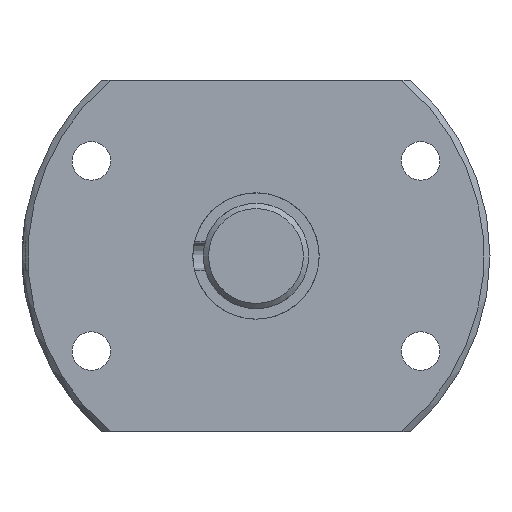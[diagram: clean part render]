
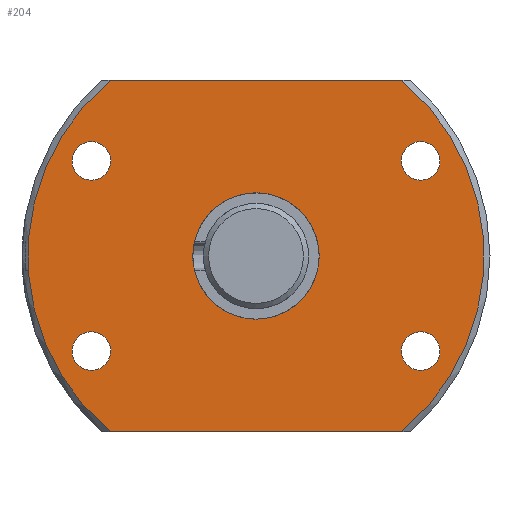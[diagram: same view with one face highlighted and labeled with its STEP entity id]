
A CAD part, left-side view. The second image highlights one B-rep face of the part: STEP entity #204.
In plain terms, the highlighted planar face has unit normal (-1, 0, 0).
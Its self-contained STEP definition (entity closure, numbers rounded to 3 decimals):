
#204 = ADVANCED_FACE( '', ( #311, #312, #313, #314, #315, #316 ), #317, .T. );
#311 = FACE_BOUND( '', #427, .T. );
#312 = FACE_OUTER_BOUND( '', #428, .T. );
#313 = FACE_BOUND( '', #429, .T. );
#314 = FACE_BOUND( '', #430, .T. );
#315 = FACE_BOUND( '', #431, .T. );
#316 = FACE_BOUND( '', #432, .T. );
#317 = PLANE( '', #433 );
#427 = EDGE_LOOP( '', ( #642 ) );
#428 = EDGE_LOOP( '', ( #643, #644, #645, #646 ) );
#429 = EDGE_LOOP( '', ( #647 ) );
#430 = EDGE_LOOP( '', ( #648 ) );
#431 = EDGE_LOOP( '', ( #649 ) );
#432 = EDGE_LOOP( '', ( #650 ) );
#433 = AXIS2_PLACEMENT_3D( '', #651, #652, #653 );
#642 = ORIENTED_EDGE( '', *, *, #718, .T. );
#643 = ORIENTED_EDGE( '', *, *, #738, .F. );
#644 = ORIENTED_EDGE( '', *, *, #703, .F. );
#645 = ORIENTED_EDGE( '', *, *, #709, .F. );
#646 = ORIENTED_EDGE( '', *, *, #739, .F. );
#647 = ORIENTED_EDGE( '', *, *, #695, .T. );
#648 = ORIENTED_EDGE( '', *, *, #697, .T. );
#649 = ORIENTED_EDGE( '', *, *, #699, .T. );
#650 = ORIENTED_EDGE( '', *, *, #701, .T. );
#651 = CARTESIAN_POINT( '', ( 0., 39., 0. ) );
#652 = DIRECTION( '', ( -1., 0., 0. ) );
#653 = DIRECTION( '', ( 0., 0., 1. ) );
#695 = EDGE_CURVE( '', #771, #771, #772, .T. );
#697 = EDGE_CURVE( '', #775, #775, #776, .T. );
#699 = EDGE_CURVE( '', #779, #779, #780, .T. );
#701 = EDGE_CURVE( '', #783, #783, #784, .T. );
#703 = EDGE_CURVE( '', #785, #788, #789, .T. );
#709 = EDGE_CURVE( '', #798, #785, #800, .T. );
#718 = EDGE_CURVE( '', #815, #815, #816, .T. );
#738 = EDGE_CURVE( '', #788, #849, #850, .T. );
#739 = EDGE_CURVE( '', #849, #798, #851, .T. );
#771 = VERTEX_POINT( '', #944 );
#772 = CIRCLE( '', #945, 3.3 );
#775 = VERTEX_POINT( '', #948 );
#776 = CIRCLE( '', #949, 3.3 );
#779 = VERTEX_POINT( '', #952 );
#780 = CIRCLE( '', #953, 3.3 );
#783 = VERTEX_POINT( '', #956 );
#784 = CIRCLE( '', #957, 3.3 );
#785 = VERTEX_POINT( '', #958 );
#788 = VERTEX_POINT( '', #964 );
#789 = CIRCLE( '', #965, 39. );
#798 = VERTEX_POINT( '', #981 );
#800 = LINE( '', #986, #987 );
#815 = VERTEX_POINT( '', #1039 );
#816 = CIRCLE( '', #1040, 10.8 );
#849 = VERTEX_POINT( '', #1110 );
#850 = LINE( '', #1111, #1112 );
#851 = CIRCLE( '', #1113, 39. );
#944 = CARTESIAN_POINT( '', ( 0., 28.146, -19.55 ) );
#945 = AXIS2_PLACEMENT_3D( '', #1160, #1161, #1162 );
#948 = CARTESIAN_POINT( '', ( 0., -28.146, -19.55 ) );
#949 = AXIS2_PLACEMENT_3D( '', #1166, #1167, #1168 );
#952 = CARTESIAN_POINT( '', ( 0., -28.146, 12.95 ) );
#953 = AXIS2_PLACEMENT_3D( '', #1172, #1173, #1174 );
#956 = CARTESIAN_POINT( '', ( 0., 28.146, 12.95 ) );
#957 = AXIS2_PLACEMENT_3D( '', #1178, #1179, #1180 );
#958 = CARTESIAN_POINT( '', ( 0., 24.92, -30. ) );
#964 = CARTESIAN_POINT( '', ( 0., 24.92, 30. ) );
#965 = AXIS2_PLACEMENT_3D( '', #1181, #1182, #1183 );
#981 = CARTESIAN_POINT( '', ( 0., -24.92, -30. ) );
#986 = CARTESIAN_POINT( '', ( 0., -40.1, -30. ) );
#987 = VECTOR( '', #1188, 1000. );
#1039 = CARTESIAN_POINT( '', ( 0., 0., -10.8 ) );
#1040 = AXIS2_PLACEMENT_3D( '', #1200, #1201, #1202 );
#1110 = CARTESIAN_POINT( '', ( 0., -24.92, 30. ) );
#1111 = CARTESIAN_POINT( '', ( 0., 40.1, 30. ) );
#1112 = VECTOR( '', #1244, 1000. );
#1113 = AXIS2_PLACEMENT_3D( '', #1245, #1246, #1247 );
#1160 = CARTESIAN_POINT( '', ( 0., 28.146, -16.25 ) );
#1161 = DIRECTION( '', ( 1., 0., 0. ) );
#1162 = DIRECTION( '', ( 0., 0., -1. ) );
#1166 = CARTESIAN_POINT( '', ( 0., -28.146, -16.25 ) );
#1167 = DIRECTION( '', ( 1., 0., 0. ) );
#1168 = DIRECTION( '', ( 0., 0., -1. ) );
#1172 = CARTESIAN_POINT( '', ( 0., -28.146, 16.25 ) );
#1173 = DIRECTION( '', ( 1., 0., 0. ) );
#1174 = DIRECTION( '', ( 0., 0., -1. ) );
#1178 = CARTESIAN_POINT( '', ( 0., 28.146, 16.25 ) );
#1179 = DIRECTION( '', ( 1., 0., 0. ) );
#1180 = DIRECTION( '', ( 0., 0., -1. ) );
#1181 = CARTESIAN_POINT( '', ( 0., 0., 0. ) );
#1182 = DIRECTION( '', ( 1., 0., 0. ) );
#1183 = DIRECTION( '', ( 0., 0., -1. ) );
#1188 = DIRECTION( '', ( 0., 1., 0. ) );
#1200 = CARTESIAN_POINT( '', ( 0., 0., 0. ) );
#1201 = DIRECTION( '', ( 1., 0., 0. ) );
#1202 = DIRECTION( '', ( 0., 0., -1. ) );
#1244 = DIRECTION( '', ( 0., -1., 0. ) );
#1245 = CARTESIAN_POINT( '', ( 0., 0., 0. ) );
#1246 = DIRECTION( '', ( 1., 0., 0. ) );
#1247 = DIRECTION( '', ( 0., 0., -1. ) );
